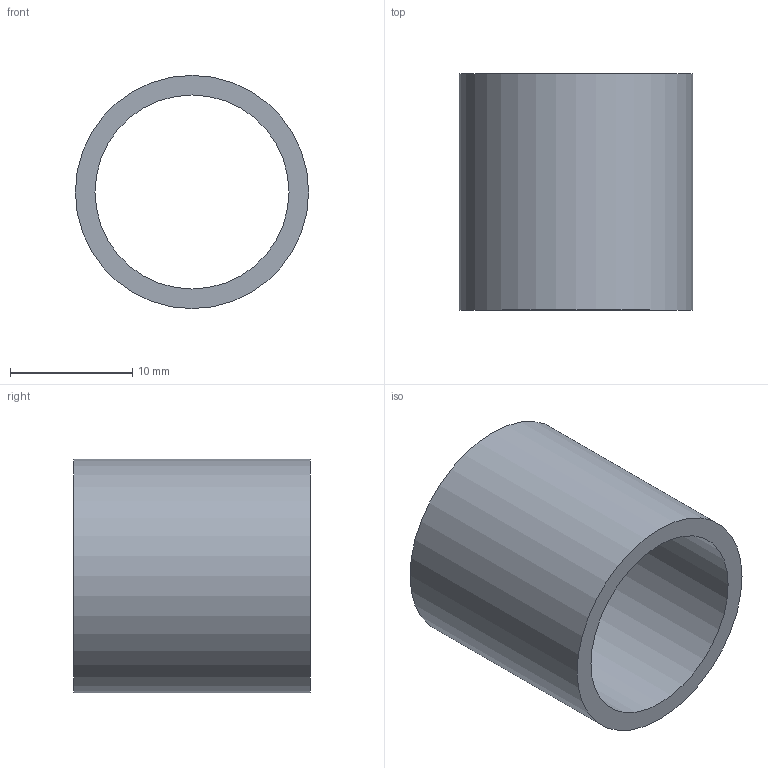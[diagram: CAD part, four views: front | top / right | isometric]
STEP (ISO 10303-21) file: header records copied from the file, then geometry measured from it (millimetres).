
FILE_DESCRIPTION(/* description */ (''),/* implementation_level */ '2;1');
FILE_NAME(/* name */ '6061-RND-075-063-IMPERIAL.step',/* time_stamp */ '2025-08-05T15:09:33-07:00',/* author */ (''),/* organization */ (''),/* preprocessor_version */ 'ST-DEVELOPER v20.1',/* originating_system */ 'Autodesk Translation Framework v14.10.0.0',/* authorisation */ '');
FILE_SCHEMA (('AUTOMOTIVE_DESIGN { 1 0 10303 214 3 1 1 }'));
Length unit declared in the file: inch
Products named in the file (1): (Unsaved)
Bounding box: 19.05 x 19.3 x 19.05 mm (x, y, z)
Volume: 1693.4 mm3; surface area: 2291.9 mm2
Topology: 1 solids, 1 shells, 4 faces, 6 edges, 4 vertices
Faces by surface type: cylinder 2, plane 2
Full cylindrical faces by diameter (mm): 15.85 x1, 19.05 x1
Entity records: 133 total; most frequent: DIRECTION 20, CARTESIAN_POINT 15, ORIENTED_EDGE 12, AXIS2_PLACEMENT_3D 9, EDGE_LOOP 6, EDGE_CURVE 6, FACE_OUTER_BOUND 4, CIRCLE 4
